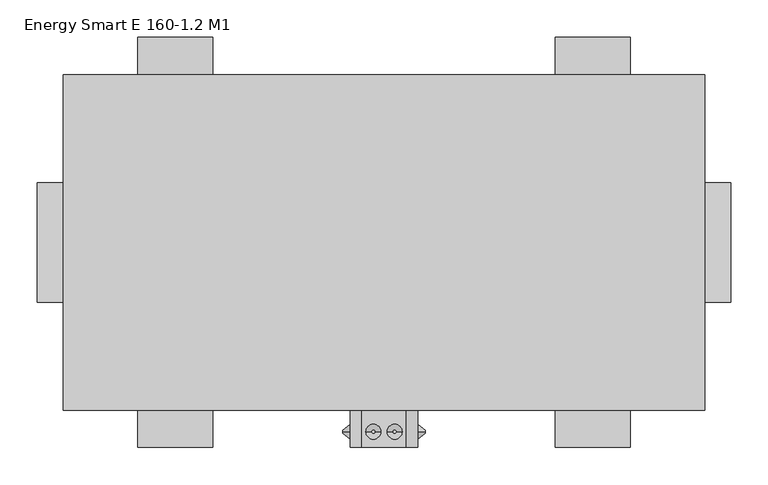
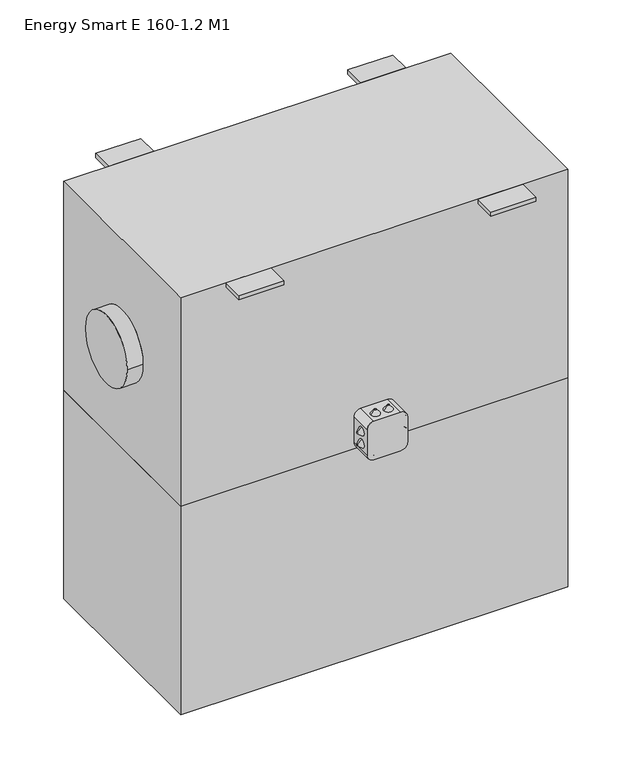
"""IFC4 building model written with IfcOpenShell, lengths in millimetres: proxy geometry, ADSK_КПВУ_ENERGY SMART E_круглая : Energy Smart E 160-1.2 M1."""

import ifcopenshell
import ifcopenshell.guid

model = None  # the IFC model being written
_history = None  # IfcOwnerHistory: only IFC2X3 demands one
_inside = {}  # id of a spatial element -> (the spatial element, [elements in it])
_under = {}  # id of a project, library or spatial element -> (it, [spatial elements below it])
_declared = {}  # id of a project -> (the project, [libraries it declares])
_typed = {}  # id of a type object -> (the type object, [elements of that type])
_made_of = {}  # id of a material, layer set ... -> (it, [elements and type objects made of it])


def new_model(schema):
    """Start an empty IFC model of exactly this schema.

    Asked for "IFC4X3", IfcOpenShell would pick the latest addendum, in which some entities
    have other attributes; the version numbers below select the first issue.
    IFC2X3 requires an IfcOwnerHistory on every rooted entity: one is made here for all.
    """
    global model, _history
    if schema == "IFC4X3":
        model = ifcopenshell.file(schema_version=(4, 3, 0, 0))
    else:
        model = ifcopenshell.file(schema=schema)
    _inside.clear()
    _under.clear()
    _declared.clear()
    _typed.clear()
    _made_of.clear()
    _history = None
    if model.schema == "IFC2X3":
        org = make("IfcOrganization", Name="unknown")
        user = make(
            "IfcPersonAndOrganization",
            ThePerson=make("IfcPerson", FamilyName="unknown"),
            TheOrganization=org,
        )
        app = make(
            "IfcApplication",
            ApplicationDeveloper=org,
            Version="unknown",
            ApplicationFullName="unknown",
            ApplicationIdentifier="unknown",
        )
        _history = make(
            "IfcOwnerHistory",
            OwningUser=user,
            OwningApplication=app,
            ChangeAction="ADDED",
            CreationDate=0,
        )
    return model


def make(cls, **values):
    """One entity of the class cls with the attributes given. An attribute that is None is left unset."""
    return model.create_entity(
        cls, **{name: value for name, value in values.items() if value is not None}
    )


def rooted(cls, **values):
    """An entity with a GlobalId (a new one), such as an element, a storey or a relation."""
    return make(cls, GlobalId=ifcopenshell.guid.new(), OwnerHistory=_history, **values)


def si_unit(unit_type, name, prefix=None):
    """IfcSIUnit, for example si_unit("LENGTHUNIT", "METRE", prefix="MILLI")."""
    return make("IfcSIUnit", UnitType=unit_type, Prefix=prefix, Name=name)


def assignment(units):
    """IfcUnitAssignment: the units of a project."""
    return None if units is None else make("IfcUnitAssignment", Units=units)


def point(xyz):
    """IfcCartesianPoint."""
    return None if xyz is None else make("IfcCartesianPoint", Coordinates=xyz)


def direction(xyz):
    """IfcDirection."""
    return None if xyz is None else make("IfcDirection", DirectionRatios=xyz)


def frame(location, z_axis=None, x_axis=None):
    """IfcAxis2Placement3D, a coordinate frame: its origin and axes. An axis left out is left unset."""
    return make(
        "IfcAxis2Placement3D",
        Location=point(location),
        Axis=direction(z_axis),
        RefDirection=direction(x_axis),
    )


def frame_2d(location, x_axis=None):
    """IfcAxis2Placement2D, a coordinate frame in the plane: its origin and x axis."""
    return make(
        "IfcAxis2Placement2D", Location=point(location), RefDirection=direction(x_axis)
    )


def origin():
    """The frame at (0, 0, 0) with its axes left unset."""
    return frame((0.0, 0.0, 0.0))


def place(relative_to, where):
    """IfcLocalPlacement: puts the frame where relative to a parent placement (None: the world)."""
    return make(
        "IfcLocalPlacement", PlacementRelTo=relative_to, RelativePlacement=where
    )


def context(
    kind, dimensions, precision=None, world=None, true_north=None, identifier=None
):
    """IfcGeometricRepresentationContext, for example the 3D "Model" context."""
    return make(
        "IfcGeometricRepresentationContext",
        ContextIdentifier=identifier,
        ContextType=kind,
        CoordinateSpaceDimension=dimensions,
        Precision=precision,
        WorldCoordinateSystem=world,
        TrueNorth=true_north,
    )


def project(units=None, contexts=None):
    """IfcProject with its units and contexts."""
    return rooted(
        "IfcProject",
        Name="project",
        RepresentationContexts=contexts,
        UnitsInContext=assignment(units),
    )


def spatial(cls, under=None, at=None, **own):
    """A site, building, storey or space (cls), placed at a placement, below another one or the project."""
    s = rooted(cls, ObjectPlacement=at, **own)
    if under is not None:
        _under.setdefault(under.id(), (under, []))[1].append(s)
    return s


def polyline(points):
    """IfcPolyline through the points."""
    return make("IfcPolyline", Points=[point(p) for p in points])


def circle_curve(where, radius):
    """IfcCircle in the frame where."""
    return make("IfcCircle", Position=where, Radius=radius)


def trimmed(basis, trim1, trim2, sense, master):
    """IfcTrimmedCurve: the piece of a basis curve between two trims."""
    return make(
        "IfcTrimmedCurve",
        BasisCurve=basis,
        Trim1=trim1,
        Trim2=trim2,
        SenseAgreement=sense,
        MasterRepresentation=master,
    )


def segment(curve, same_sense, transition):
    """IfcCompositeCurveSegment."""
    return make(
        "IfcCompositeCurveSegment",
        Transition=transition,
        SameSense=same_sense,
        ParentCurve=curve,
    )


def composite_curve(segments, self_intersect=None):
    """IfcCompositeCurve: segments joined end to end."""
    return make("IfcCompositeCurve", Segments=segments, SelfIntersect=self_intersect)


def outline(outer, holes=None, kind="AREA"):
    """IfcArbitraryClosedProfileDef: a profile drawn as a closed curve; with holes, ...WithVoids."""
    if holes is None:
        return make("IfcArbitraryClosedProfileDef", ProfileType=kind, OuterCurve=outer)
    return make(
        "IfcArbitraryProfileDefWithVoids",
        ProfileType=kind,
        OuterCurve=outer,
        InnerCurves=holes,
    )


def extrude(swept, where, along, depth):
    """IfcExtrudedAreaSolid: the profile swept, set in the frame where, extruded along a direction by depth."""
    return make(
        "IfcExtrudedAreaSolid",
        SweptArea=swept,
        Position=where,
        ExtrudedDirection=direction(along),
        Depth=depth,
    )


def shape(context_of_items, identifier, shape_type, items):
    """IfcShapeRepresentation: the items that make up one representation, for example the "Body"."""
    return make(
        "IfcShapeRepresentation",
        ContextOfItems=context_of_items,
        RepresentationIdentifier=identifier,
        RepresentationType=shape_type,
        Items=items,
    )


def source(mapping_origin, context_of_items, identifier, shape_type, items):
    """IfcRepresentationMap: a shape defined once, which mapped items show again and again."""
    return make(
        "IfcRepresentationMap",
        MappingOrigin=mapping_origin,
        MappedRepresentation=shape(context_of_items, identifier, shape_type, items),
    )


def transform(
    local_origin,
    x_axis=None,
    y_axis=None,
    z_axis=None,
    scale=None,
    scale2=None,
    scale3=None,
    uniform=True,
):
    """IfcCartesianTransformationOperator3D, or its non-uniform kind. x_axis, y_axis, z_axis: its Axis1, 2, 3."""
    if uniform:
        return make(
            "IfcCartesianTransformationOperator3D",
            Axis1=direction(x_axis),
            Axis2=direction(y_axis),
            LocalOrigin=point(local_origin),
            Scale=scale,
            Axis3=direction(z_axis),
        )
    return make(
        "IfcCartesianTransformationOperator3DnonUniform",
        Axis1=direction(x_axis),
        Axis2=direction(y_axis),
        LocalOrigin=point(local_origin),
        Scale=scale,
        Axis3=direction(z_axis),
        Scale2=scale2,
        Scale3=scale3,
    )


def mapped(mapping_source, mapping_target):
    """IfcMappedItem: shows the shape of a source again, moved by a transform."""
    return make(
        "IfcMappedItem", MappingSource=mapping_source, MappingTarget=mapping_target
    )


def made_of(thing, what):
    """Note that an element or type object is made of a material, layer set ...; save() writes the relation."""
    if what is not None:
        _made_of.setdefault(what.id(), (what, []))[1].append(thing)
    return thing


def element(
    cls,
    number,
    at=None,
    inside=None,
    cuts=None,
    type_object=None,
    material=None,
    context=None,
    identifier="Body",
    shape_type=None,
    held_by="IfcProductDefinitionShape",
    body=None,
    shapes=None,
    **own,
):
    """One element of the class cls, such as IfcWall. Its Tag is "e" and its number.

    at: its placement. inside: the storey or other place that contains it. cuts: it is an
    opening in that element (IfcRelVoidsElement). A single representation is given by context,
    identifier, shape_type and body (its items); several are given by shapes. held_by: the class
    of the entity that holds the representations. save() writes the other relations.
    """
    e = rooted(cls, Tag="e%d" % number, ObjectPlacement=at, **own)
    if body is not None:
        shapes = [shape(context, identifier, shape_type, body)]
    if shapes is not None:
        e.Representation = make(held_by, Representations=shapes)
    if inside is not None:
        _inside.setdefault(inside.id(), (inside, []))[1].append(e)
    if cuts is not None:
        rooted(
            "IfcRelVoidsElement", RelatingBuildingElement=cuts, RelatedOpeningElement=e
        )
    if type_object is not None:
        _typed.setdefault(type_object.id(), (type_object, []))[1].append(e)
    return made_of(e, material)


def aggregate(whole, parts):
    """IfcRelAggregates: a whole, such as a stair, and the parts it consists of."""
    return rooted("IfcRelAggregates", RelatingObject=whole, RelatedObjects=parts)


def save(model, path):
    """Write the relations noted so far, then the file.

    IfcRelAggregates (storeys below a building ...), IfcRelContainedInSpatialStructure (elements
    in a storey), IfcRelDefinesByType, IfcRelAssociatesMaterial and IfcRelDeclares: one each for
    every whole, place, type object, material and project.
    """
    for whole, parts in _under.values():
        aggregate(whole, parts)
    for where, things in _inside.values():
        rooted(
            "IfcRelContainedInSpatialStructure",
            RelatedElements=things,
            RelatingStructure=where,
        )
    for kind, things in _typed.values():
        rooted("IfcRelDefinesByType", RelatedObjects=things, RelatingType=kind)
    for what, things in _made_of.values():
        rooted("IfcRelAssociatesMaterial", RelatedObjects=things, RelatingMaterial=what)
    for by, libraries in _declared.values():
        rooted("IfcRelDeclares", RelatingContext=by, RelatedDefinitions=libraries)
    model.write(path)


def plane_surface(at):
    """IfcPlane: the flat surface through the origin of the frame at, square to its z axis."""
    return make("IfcPlane", Position=at)


def cylinder_surface(at, radius):
    """IfcCylindricalSurface: all points at the distance radius from the z axis of the frame at."""
    return make("IfcCylindricalSurface", Position=at, Radius=radius)


def revolved_surface(curve, axis_point, axis_direction):
    """IfcSurfaceOfRevolution: the curve turned about the line through axis_point along axis_direction."""
    return make(
        "IfcSurfaceOfRevolution",
        SweptCurve=make("IfcArbitraryOpenProfileDef", ProfileType="CURVE", Curve=curve),
        AxisPosition=make("IfcAxis1Placement", Location=point(axis_point), Axis=direction(axis_direction)),
    )


def advanced_brep(points, edges, surfaces, faces):
    """IfcAdvancedBrep: a solid bounded by faces that lie on surfaces and meet in shared edges.

    An edge is (start, end): straight between two places in points (the first is 0);
    or (start, end, curve); or (start, end, curve, False) where it runs against its curve.
    A face is (place in surfaces, loops), or (place, loops, False) where it looks against
    its surface's normal. A loop lists edges by number (the first is 1), with a minus sign
    where the edge is run from its end to its start. The first loop is the outer one.
    """
    corners = [point(p) for p in points]
    vertices = [make("IfcVertexPoint", VertexGeometry=c) for c in corners]
    made = []
    for start, end, *more in edges:
        made.append(
            make(
                "IfcEdgeCurve",
                EdgeStart=vertices[start],
                EdgeEnd=vertices[end],
                EdgeGeometry=more[0] if more else make("IfcPolyline", Points=[corners[start], corners[end]]),
                SameSense=more[1] if len(more) > 1 else True,
            )
        )
    hull = []
    for where, loops, *sense in faces:
        bounds = []
        for j, loop in enumerate(loops):
            ring = [make("IfcOrientedEdge", EdgeElement=made[abs(k) - 1], Orientation=k > 0) for k in loop]
            bounds.append(
                make(
                    "IfcFaceOuterBound" if j == 0 else "IfcFaceBound",
                    Bound=make("IfcEdgeLoop", EdgeList=ring),
                    Orientation=True,
                )
            )
        hull.append(make("IfcAdvancedFace", Bounds=bounds, FaceSurface=surfaces[where], SameSense=sense[0] if sense else True))
    return make("IfcAdvancedBrep", Outer=make("IfcClosedShell", CfsFaces=hull))


def energy_smart_e_160_1_2_m1_94fbb1aa(model_context):
    return source(origin(), model_context, "Body", "SolidModel", [
        advanced_brep(
        [(211.0, -253.9311792, -216.7092609), (211.0, -253.9311792, -212.7092609), (221.0, -253.9311792, -224.7092609), (221.0, -253.9311792, -204.7092609)],
        [
            (0, 1, circle_curve(frame((211.0, -253.9311792, -214.7092609), z_axis=(-1.0, 0.0, 0.0), x_axis=(0.0, 0.0, -1.0)), 2.0)),
            (1, 0, circle_curve(frame((211.0, -253.9311792, -214.7092609), z_axis=(-1.0, 0.0, 0.0), x_axis=(0.0, 0.0, 1.0)), 2.0)),
            (2, 3, circle_curve(frame((221.0, -253.9311792, -214.7092609), z_axis=(1.0, 0.0, 0.0), x_axis=(0.0, 0.0, 1.0)), 10.0)),
            (3, 2, circle_curve(frame((221.0, -253.9311792, -214.7092609), z_axis=(1.0, 0.0, 0.0), x_axis=(0.0, 0.0, -1.0)), 10.0)),
            (2, 0),
            (1, 3),
        ],
        [
            plane_surface(frame((211.0, -253.9311792, -214.7092609), z_axis=(-1.0, 0.0, 0.0), x_axis=(0.0, -1.0, 0.0))),
            plane_surface(frame((221.0, -253.9311792, -214.7092609), z_axis=(1.0, 0.0, 0.0), x_axis=(0.0, -1.0, 0.0))),
            revolved_surface(polyline([(211.0, -253.9311792, -212.7092609), (221.0, -253.9311792, -204.7092609)]), (208.5, -253.9311792, -214.7092609), (1.0, 0.0, 0.0)),
            revolved_surface(polyline([(211.0, -253.9311792, -216.7092609), (221.0, -253.9311792, -224.7092609)]), (208.5, -253.9311792, -214.7092609), (1.0, 0.0, 0.0)),
        ],
        [
            (0, [[1, 2]]),
            (1, [[3, 4]]),
            (2, [[-3, 5, -2, 6]]),
            (3, [[-4, -6, -1, -5]]),
        ],
    ),
        advanced_brep(
        [(211.0, -253.9311792, -184.0531164), (211.0, -253.9311792, -188.0531164), (221.0, -253.9311792, -176.0531164), (221.0, -253.9311792, -196.0531164)],
        [
            (0, 1, circle_curve(frame((211.0, -253.9311792, -186.0531164), z_axis=(-1.0, 0.0, 0.0), x_axis=(0.0, 0.0, 1.0)), 2.0)),
            (1, 0, circle_curve(frame((211.0, -253.9311792, -186.0531164), z_axis=(-1.0, 0.0, 0.0), x_axis=(0.0, 0.0, -1.0)), 2.0)),
            (2, 3, circle_curve(frame((221.0, -253.9311792, -186.0531164), z_axis=(1.0, 0.0, 0.0), x_axis=(0.0, 0.0, -1.0)), 10.0)),
            (3, 2, circle_curve(frame((221.0, -253.9311792, -186.0531164), z_axis=(1.0, 0.0, 0.0), x_axis=(0.0, 0.0, 1.0)), 10.0)),
            (3, 1),
            (0, 2),
        ],
        [
            plane_surface(frame((211.0, -253.9311792, -186.0531164), z_axis=(-1.0, 0.0, 0.0), x_axis=(0.0, 1.0, 0.0))),
            plane_surface(frame((221.0, -253.9311792, -186.0531164), z_axis=(1.0, 0.0, 0.0), x_axis=(0.0, 1.0, 0.0))),
            revolved_surface(polyline([(211.0, -253.9311792, -184.0531164), (221.0, -253.9311792, -176.0531164)]), (208.5, -253.9311792, -186.0531164), (1.0, 0.0, 0.0)),
            revolved_surface(polyline([(211.0, -253.9311792, -188.0531164), (221.0, -253.9311792, -196.0531164)]), (208.5, -253.9311792, -186.0531164), (1.0, 0.0, 0.0)),
        ],
        [
            (0, [[1, 2]]),
            (1, [[3, 4]]),
            (2, [[-4, 5, -1, 6]]),
            (3, [[-3, -6, -2, -5]]),
        ],
    ),
        advanced_brep(
        [(321.0, -253.9311792, -216.7092609), (321.0, -253.9311792, -212.7092609), (311.0, -253.9311792, -224.7092609), (311.0, -253.9311792, -204.7092609)],
        [
            (0, 1, circle_curve(frame((321.0, -253.9311792, -214.7092609), z_axis=(1.0, 0.0, 0.0), x_axis=(0.0, 0.0, -1.0)), 2.0)),
            (1, 0, circle_curve(frame((321.0, -253.9311792, -214.7092609), z_axis=(1.0, 0.0, 0.0), x_axis=(0.0, 0.0, 1.0)), 2.0)),
            (2, 3, circle_curve(frame((311.0, -253.9311792, -214.7092609), z_axis=(-1.0, 0.0, 0.0), x_axis=(0.0, 0.0, 1.0)), 10.0)),
            (3, 2, circle_curve(frame((311.0, -253.9311792, -214.7092609), z_axis=(-1.0, 0.0, 0.0), x_axis=(0.0, 0.0, -1.0)), 10.0)),
            (3, 1),
            (0, 2),
        ],
        [
            plane_surface(frame((321.0, -253.9311792, -214.7092609), z_axis=(1.0, 0.0, 0.0), x_axis=(0.0, 1.0, 0.0))),
            plane_surface(frame((311.0, -253.9311792, -214.7092609), z_axis=(-1.0, 0.0, 0.0), x_axis=(0.0, 1.0, 0.0))),
            revolved_surface(polyline([(321.0, -253.9311792, -216.7092609), (311.0, -253.9311792, -224.7092609)]), (323.5, -253.9311792, -214.7092609), (-1.0, 0.0, 0.0)),
            revolved_surface(polyline([(321.0, -253.9311792, -212.7092609), (311.0, -253.9311792, -204.7092609)]), (323.5, -253.9311792, -214.7092609), (-1.0, 0.0, 0.0)),
        ],
        [
            (0, [[1, 2]]),
            (1, [[3, 4]]),
            (2, [[-4, 5, -1, 6]]),
            (3, [[-3, -6, -2, -5]]),
        ],
    ),
        advanced_brep(
        [(321.0, -253.9311792, -184.0531164), (321.0, -253.9311792, -188.0531164), (311.0, -253.9311792, -176.0531164), (311.0, -253.9311792, -196.0531164)],
        [
            (0, 1, circle_curve(frame((321.0, -253.9311792, -186.0531164), z_axis=(1.0, 0.0, 0.0), x_axis=(0.0, 0.0, 1.0)), 2.0)),
            (1, 0, circle_curve(frame((321.0, -253.9311792, -186.0531164), z_axis=(1.0, 0.0, 0.0), x_axis=(0.0, 0.0, -1.0)), 2.0)),
            (2, 3, circle_curve(frame((311.0, -253.9311792, -186.0531164), z_axis=(-1.0, 0.0, 0.0), x_axis=(0.0, 0.0, -1.0)), 10.0)),
            (3, 2, circle_curve(frame((311.0, -253.9311792, -186.0531164), z_axis=(-1.0, 0.0, 0.0), x_axis=(0.0, 0.0, 1.0)), 10.0)),
            (2, 0),
            (1, 3),
        ],
        [
            plane_surface(frame((321.0, -253.9311792, -186.0531164), z_axis=(1.0, 0.0, 0.0), x_axis=(0.0, -1.0, 0.0))),
            plane_surface(frame((311.0, -253.9311792, -186.0531164), z_axis=(-1.0, 0.0, 0.0), x_axis=(0.0, -1.0, 0.0))),
            revolved_surface(polyline([(321.0, -253.9311792, -188.0531164), (311.0, -253.9311792, -196.0531164)]), (323.5, -253.9311792, -186.0531164), (-1.0, 0.0, 0.0)),
            revolved_surface(polyline([(321.0, -253.9311792, -184.0531164), (311.0, -253.9311792, -176.0531164)]), (323.5, -253.9311792, -186.0531164), (-1.0, 0.0, 0.0)),
        ],
        [
            (0, [[1, 2]]),
            (1, [[3, 4]]),
            (2, [[-3, 5, -2, 6]]),
            (3, [[-4, -6, -1, -5]]),
        ],
    ),
        advanced_brep(
        [(249.6719278, -253.9311792, -255.0), (253.6719278, -253.9311792, -255.0), (241.6719278, -253.9311792, -245.0), (261.6719278, -253.9311792, -245.0)],
        [
            (0, 1, circle_curve(frame((251.6719278, -253.9311792, -255.0), z_axis=(0.0, 0.0, -1.0), x_axis=(-1.0, 0.0, 0.0)), 2.0)),
            (1, 0, circle_curve(frame((251.6719278, -253.9311792, -255.0), z_axis=(0.0, 0.0, -1.0), x_axis=(1.0, 0.0, 0.0)), 2.0)),
            (2, 3, circle_curve(frame((251.6719278, -253.9311792, -245.0), z_axis=(0.0, 0.0, 1.0), x_axis=(1.0, 0.0, 0.0)), 10.0)),
            (3, 2, circle_curve(frame((251.6719278, -253.9311792, -245.0), z_axis=(0.0, 0.0, 1.0), x_axis=(-1.0, 0.0, 0.0)), 10.0)),
            (3, 1),
            (0, 2),
        ],
        [
            plane_surface(frame((251.6719278, -253.9311792, -255.0), z_axis=(0.0, 0.0, -1.0), x_axis=(0.0, 1.0, 0.0))),
            plane_surface(frame((251.6719278, -253.9311792, -245.0), z_axis=(0.0, 0.0, 1.0), x_axis=(0.0, 1.0, 0.0))),
            revolved_surface(polyline([(249.6719278, -253.9311792, -255.0), (241.6719278, -253.9311792, -245.0)]), (251.6719278, -253.9311792, -257.5), (0.0, 0.0, 1.0)),
            revolved_surface(polyline([(253.6719278, -253.9311792, -255.0), (261.6719278, -253.9311792, -245.0)]), (251.6719278, -253.9311792, -257.5), (0.0, 0.0, 1.0)),
        ],
        [
            (0, [[1, 2]]),
            (1, [[3, 4]]),
            (2, [[-4, 5, -1, 6]]),
            (3, [[-3, -6, -2, -5]]),
        ],
    ),
        advanced_brep(
        [(282.3280722, -253.9311792, -255.0), (278.3280722, -253.9311792, -255.0), (290.3280722, -253.9311792, -245.0), (270.3280722, -253.9311792, -245.0)],
        [
            (0, 1, circle_curve(frame((280.3280722, -253.9311792, -255.0), z_axis=(0.0, 0.0, -1.0), x_axis=(1.0, 0.0, 0.0)), 2.0)),
            (1, 0, circle_curve(frame((280.3280722, -253.9311792, -255.0), z_axis=(0.0, 0.0, -1.0), x_axis=(-1.0, 0.0, 0.0)), 2.0)),
            (2, 3, circle_curve(frame((280.3280722, -253.9311792, -245.0), z_axis=(0.0, 0.0, 1.0), x_axis=(-1.0, 0.0, 0.0)), 10.0)),
            (3, 2, circle_curve(frame((280.3280722, -253.9311792, -245.0), z_axis=(0.0, 0.0, 1.0), x_axis=(1.0, 0.0, 0.0)), 10.0)),
            (2, 0),
            (1, 3),
        ],
        [
            plane_surface(frame((280.3280722, -253.9311792, -255.0), z_axis=(0.0, 0.0, -1.0), x_axis=(0.0, -1.0, 0.0))),
            plane_surface(frame((280.3280722, -253.9311792, -245.0), z_axis=(0.0, 0.0, 1.0), x_axis=(0.0, -1.0, 0.0))),
            revolved_surface(polyline([(278.3280722, -253.9311792, -255.0), (270.3280722, -253.9311792, -245.0)]), (280.3280722, -253.9311792, -257.5), (0.0, 0.0, 1.0)),
            revolved_surface(polyline([(282.3280722, -253.9311792, -255.0), (290.3280722, -253.9311792, -245.0)]), (280.3280722, -253.9311792, -257.5), (0.0, 0.0, 1.0)),
        ],
        [
            (0, [[1, 2]]),
            (1, [[3, 4]]),
            (2, [[-3, 5, -2, 6]]),
            (3, [[-4, -6, -1, -5]]),
        ],
    ),
        advanced_brep(
        [(249.6719278, -253.9311792, -145.0), (253.6719278, -253.9311792, -145.0), (241.6719278, -253.9311792, -155.0), (261.6719278, -253.9311792, -155.0)],
        [
            (0, 1, circle_curve(frame((251.6719278, -253.9311792, -145.0), z_axis=(0.0, 0.0, 1.0), x_axis=(-1.0, 0.0, 0.0)), 2.0)),
            (1, 0, circle_curve(frame((251.6719278, -253.9311792, -145.0), z_axis=(0.0, 0.0, 1.0), x_axis=(1.0, 0.0, 0.0)), 2.0)),
            (2, 3, circle_curve(frame((251.6719278, -253.9311792, -155.0), z_axis=(0.0, 0.0, -1.0), x_axis=(1.0, 0.0, 0.0)), 10.0)),
            (3, 2, circle_curve(frame((251.6719278, -253.9311792, -155.0), z_axis=(0.0, 0.0, -1.0), x_axis=(-1.0, 0.0, 0.0)), 10.0)),
            (2, 0),
            (1, 3),
        ],
        [
            plane_surface(frame((251.6719278, -253.9311792, -145.0), z_axis=(0.0, 0.0, 1.0), x_axis=(0.0, -1.0, 0.0))),
            plane_surface(frame((251.6719278, -253.9311792, -155.0), z_axis=(0.0, 0.0, -1.0), x_axis=(0.0, -1.0, 0.0))),
            revolved_surface(polyline([(253.6719278, -253.9311792, -145.0), (261.6719278, -253.9311792, -155.0)]), (251.6719278, -253.9311792, -142.5), (0.0, 0.0, -1.0)),
            revolved_surface(polyline([(249.6719278, -253.9311792, -145.0), (241.6719278, -253.9311792, -155.0)]), (251.6719278, -253.9311792, -142.5), (0.0, 0.0, -1.0)),
        ],
        [
            (0, [[1, 2]]),
            (1, [[3, 4]]),
            (2, [[-3, 5, -2, 6]]),
            (3, [[-4, -6, -1, -5]]),
        ],
    ),
        advanced_brep(
        [(282.3280722, -253.9311792, -145.0), (278.3280722, -253.9311792, -145.0), (290.3280722, -253.9311792, -155.0), (270.3280722, -253.9311792, -155.0)],
        [
            (0, 1, circle_curve(frame((280.3280722, -253.9311792, -145.0), z_axis=(0.0, 0.0, 1.0), x_axis=(1.0, 0.0, 0.0)), 2.0)),
            (1, 0, circle_curve(frame((280.3280722, -253.9311792, -145.0), z_axis=(0.0, 0.0, 1.0), x_axis=(-1.0, 0.0, 0.0)), 2.0)),
            (2, 3, circle_curve(frame((280.3280722, -253.9311792, -155.0), z_axis=(0.0, 0.0, -1.0), x_axis=(-1.0, 0.0, 0.0)), 10.0)),
            (3, 2, circle_curve(frame((280.3280722, -253.9311792, -155.0), z_axis=(0.0, 0.0, -1.0), x_axis=(1.0, 0.0, 0.0)), 10.0)),
            (3, 1),
            (0, 2),
        ],
        [
            plane_surface(frame((280.3280722, -253.9311792, -145.0), z_axis=(0.0, 0.0, 1.0), x_axis=(0.0, 1.0, 0.0))),
            plane_surface(frame((280.3280722, -253.9311792, -155.0), z_axis=(0.0, 0.0, -1.0), x_axis=(0.0, 1.0, 0.0))),
            revolved_surface(polyline([(282.3280722, -253.9311792, -145.0), (290.3280722, -253.9311792, -155.0)]), (280.3280722, -253.9311792, -142.5), (0.0, 0.0, -1.0)),
            revolved_surface(polyline([(278.3280722, -253.9311792, -145.0), (270.3280722, -253.9311792, -155.0)]), (280.3280722, -253.9311792, -142.5), (0.0, 0.0, -1.0)),
        ],
        [
            (0, [[1, 2]]),
            (1, [[3, 4]]),
            (2, [[-4, 5, -1, 6]]),
            (3, [[-3, -6, -2, -5]]),
        ],
    ),
        extrude(outline(composite_curve([segment(polyline([(-245.0, 236.0), (-245.0, 296.0)]), True, "CONTINUOUS"), segment(trimmed(circle_curve(frame_2d((-230.0, 296.0)), 15.0), [point((-245.0, 296.0))], [point((-230.0, 311.0))], False, "CARTESIAN"), True, "CONTINUOUS"), segment(polyline([(-230.0, 311.0), (-170.0, 311.0)]), True, "CONTINUOUS"), segment(trimmed(circle_curve(frame_2d((-170.0, 296.0)), 15.0), [point((-170.0, 311.0))], [point((-155.0, 296.0))], False, "CARTESIAN"), True, "CONTINUOUS"), segment(polyline([(-155.0, 296.0), (-155.0, 236.0)]), True, "CONTINUOUS"), segment(trimmed(circle_curve(frame_2d((-170.0, 236.0)), 15.0), [point((-155.0, 236.0))], [point((-170.0, 221.0))], False, "CARTESIAN"), True, "CONTINUOUS"), segment(polyline([(-170.0, 221.0), (-230.0, 221.0)]), True, "CONTINUOUS"), segment(trimmed(circle_curve(frame_2d((-230.0, 236.0)), 15.0), [point((-230.0, 221.0))], [point((-245.0, 236.0))], False, "CARTESIAN"), True, "CONTINUOUS")], self_intersect=False)), frame((0.0, -275.0, 0.0), z_axis=(0.0, 1.0, 0.0), x_axis=(0.0, 0.0, 1.0)), (0.0, 0.0, 1.0), 50.0),
        advanced_brep(
        [(696.0, -225.0, 245.0), (696.0, -225.0, -245.0), (696.0, 225.0, -245.0), (696.0, 225.0, 245.0), (696.0, 80.0, 0.0), (696.0, -80.0, 0.0), (-164.0, -225.0, 245.0), (-164.0, 225.0, 245.0), (-164.0, 225.0, -245.0), (-164.0, -225.0, -245.0), (-164.0, 80.0, 0.0), (-164.0, -80.0, 0.0), (-199.0, -80.0, 0.0), (-199.0, 80.0, 0.0), (731.0, -80.0, 0.0), (731.0, 80.0, 0.0)],
        [
            (0, 1),
            (1, 2),
            (2, 3),
            (3, 0),
            (4, 5, circle_curve(frame((696.0, 0.0, 0.0), z_axis=(-1.0, 0.0, 0.0), x_axis=(0.0, 1.0, 0.0)), 80.0)),
            (5, 4, circle_curve(frame((696.0, 0.0, 0.0), z_axis=(-1.0, 0.0, 0.0), x_axis=(0.0, 1.0, 0.0)), 80.0)),
            (6, 7),
            (7, 8),
            (8, 9),
            (9, 6),
            (10, 11, circle_curve(frame((-164.0, 0.0, 0.0), z_axis=(1.0, 0.0, 0.0), x_axis=(0.0, 1.0, 0.0)), 80.0)),
            (11, 10, circle_curve(frame((-164.0, 0.0, 0.0), z_axis=(1.0, 0.0, 0.0), x_axis=(0.0, 1.0, 0.0)), 80.0)),
            (12, 13, circle_curve(frame((-199.0, 0.0, 0.0), z_axis=(-1.0, 0.0, 0.0), x_axis=(0.0, 1.0, 0.0)), 80.0)),
            (13, 12, circle_curve(frame((-199.0, 0.0, 0.0), z_axis=(-1.0, 0.0, 0.0), x_axis=(0.0, 1.0, 0.0)), 80.0)),
            (0, 6),
            (9, 1),
            (8, 2),
            (7, 3),
            (12, 11),
            (10, 13),
            (14, 15, circle_curve(frame((731.0, 0.0, 0.0), z_axis=(1.0, 0.0, 0.0), x_axis=(0.0, 1.0, 0.0)), 80.0)),
            (15, 14, circle_curve(frame((731.0, 0.0, 0.0), z_axis=(1.0, 0.0, 0.0), x_axis=(0.0, 1.0, 0.0)), 80.0)),
            (14, 5),
            (4, 15),
        ],
        [
            plane_surface(frame((696.0, -225.0, 245.0), z_axis=(1.0, 0.0, 0.0), x_axis=(0.0, 0.0, -1.0))),
            plane_surface(frame((-164.0, -225.0, 245.0), z_axis=(-1.0, 0.0, 0.0), x_axis=(0.0, 0.0, 1.0))),
            plane_surface(frame((-199.0, 80.0, 0.0), z_axis=(-1.0, 0.0, 0.0), x_axis=(0.0, 0.0, -1.0))),
            plane_surface(frame((696.0, -225.0, 245.0), z_axis=(0.0, -1.0, 0.0), x_axis=(-1.0, 0.0, 0.0))),
            plane_surface(frame((696.0, -225.0, -245.0), z_axis=(0.0, 0.0, -1.0), x_axis=(-1.0, 0.0, 0.0))),
            plane_surface(frame((696.0, 225.0, -245.0), z_axis=(0.0, 1.0, 0.0), x_axis=(-1.0, 0.0, 0.0))),
            plane_surface(frame((696.0, 225.0, 245.0), z_axis=(0.0, 0.0, 1.0), x_axis=(-1.0, 0.0, 0.0))),
            cylinder_surface(frame((-199.0, 0.0, 0.0), z_axis=(1.0, 0.0, 0.0), x_axis=(0.0, 1.0, 0.0)), 80.0),
            plane_surface(frame((731.0, 80.0, 0.0), z_axis=(1.0, 0.0, 0.0), x_axis=(0.0, 0.0, 1.0))),
            cylinder_surface(frame((696.0, 0.0, 0.0), z_axis=(1.0, 0.0, 0.0), x_axis=(0.0, 1.0, 0.0)), 80.0),
        ],
        [
            (0, [[1, 2, 3, 4], [5, 6]]),
            (1, [[7, 8, 9, 10], [11, 12]]),
            (2, [[13, 14]]),
            (3, [[-1, 15, -10, 16]]),
            (4, [[-2, -16, -9, 17]]),
            (5, [[-3, -17, -8, 18]]),
            (6, [[-4, -18, -7, -15]]),
            (7, [[-13, 19, -11, 20]]),
            (7, [[-14, -20, -12, -19]]),
            (8, [[21, 22]]),
            (9, [[-21, 23, -5, 24]]),
            (9, [[-22, -24, -6, -23]]),
        ],
    ),
        extrude(outline(polyline([(36.0, 275.0), (36.0, 225.0), (-64.0, 225.0), (-64.0, 275.0), (36.0, 275.0)])), frame((0.0, 0.0, 235.0), z_axis=(0.0, 0.0, 1.0), x_axis=(1.0, 0.0, 0.0)), (0.0, 0.0, 1.0), 10.0),
        extrude(outline(polyline([(496.0, 275.0), (596.0, 275.0), (596.0, 225.0), (496.0, 225.0), (496.0, 275.0)])), frame((0.0, 0.0, 235.0), z_axis=(0.0, 0.0, 1.0), x_axis=(1.0, 0.0, 0.0)), (0.0, 0.0, 1.0), 10.0),
        extrude(outline(polyline([(36.0, -275.0), (-64.0, -275.0), (-64.0, -225.0), (36.0, -225.0), (36.0, -275.0)])), frame((0.0, 0.0, 235.0), z_axis=(0.0, 0.0, 1.0), x_axis=(1.0, 0.0, 0.0)), (0.0, 0.0, 1.0), 10.0),
        extrude(outline(polyline([(496.0, -275.0), (496.0, -225.0), (596.0, -225.0), (596.0, -275.0), (496.0, -275.0)])), frame((0.0, 0.0, 235.0), z_axis=(0.0, 0.0, 1.0), x_axis=(1.0, 0.0, 0.0)), (0.0, 0.0, 1.0), 10.0),
        extrude(outline(polyline([(696.0, 225.0), (696.0, -225.0), (-164.0, -225.0), (-164.0, 225.0), (696.0, 225.0)])), frame((0.0, 0.0, -735.0), z_axis=(0.0, 0.0, 1.0), x_axis=(1.0, 0.0, 0.0)), (0.0, 0.0, 1.0), 490.0),
    ])


if __name__ == "__main__":
    model = new_model("IFC4")
    model_context = context("Model", 3, world=origin())
    ifc_project = project(units=[si_unit("LENGTHUNIT", "METRE", prefix="MILLI")], contexts=[model_context])
    site = spatial("IfcSite", under=ifc_project)
    building = spatial("IfcBuilding", under=site)
    placement = place(None, origin())
    energy_smart_e_160_1_2_m1_shape = energy_smart_e_160_1_2_m1_94fbb1aa(model_context)
    element("IfcBuildingElementProxy", 1, Name="ADSK_КПВУ_ENERGY SMART E_круглая : Energy Smart E 160-1.2 M1", ObjectType="ADSK_КПВУ_ENERGY SMART E_круглая : Energy Smart E 160-1.2 M1", at=placement, inside=building, context=model_context, shape_type="MappedRepresentation", body=[
        mapped(energy_smart_e_160_1_2_m1_shape, transform((0.0, 0.0, 0.0), x_axis=(1.0, 0.0, 0.0), y_axis=(0.0, 1.0, 0.0), z_axis=(0.0, 0.0, 1.0))),
    ])
    save(model, "model.ifc")
